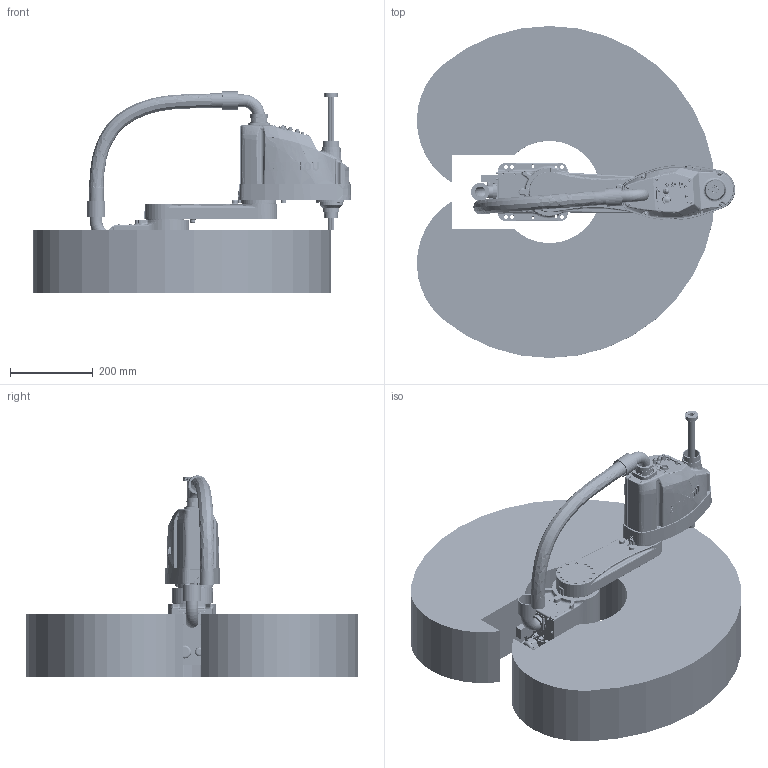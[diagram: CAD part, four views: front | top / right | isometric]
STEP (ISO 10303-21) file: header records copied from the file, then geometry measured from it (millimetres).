
FILE_DESCRIPTION (( 'STEP AP214' ), '1' );
FILE_NAME ('TM4-R400湍堍雄毓峓衄logo2017.STEP', '2023-10-19T13:53:09', ( '' ), ( '' ), 'SwSTEP 2.0', 'SolidWorks 2017', '' );
FILE_SCHEMA (( 'AUTOMOTIVE_DESIGN' ));
Length unit declared in the file: millimetre
Products named in the file (7): 丝杆部分^TM4-R400带运动范围有logo2017; 底座部分^TM4-R400带运动范围有logo2017; 大臂部分^TM4-R400带运动范围有logo2017; 运动范围图^TM4-R400带运动范围有logo2017; TM4-R400湍堍雄毓峓衄logo2017; 小臂部分logo^TM4-R400带运动范围有logo2017; 浪管^TM4-R400带运动范围有logo2017
Assembly tree (6 placements, depth 2):
  TM4-R400湍堍雄毓峓衄logo2017
    底座部分^TM4-R400带运动范围有logo2017
    大臂部分^TM4-R400带运动范围有logo2017
    浪管^TM4-R400带运动范围有logo2017
    丝杆部分^TM4-R400带运动范围有logo2017
    运动范围图^TM4-R400带运动范围有logo2017
    小臂部分logo^TM4-R400带运动范围有logo2017
Bounding box: 767.46 x 800 x 484.8 mm (x, y, z)
Volume: 60890730.3 mm3; surface area: 2307175.8 mm2
Topology: 56 solids, 132 shells, 6370 faces, 16294 edges, 10459 vertices
Faces by surface type: plane 2453, cylinder 1632, bspline 1230, cone 722, torus 275, sphere 58
Entity records: 306594 total; most frequent: CARTESIAN_POINT 154617, ORIENTED_EDGE 32251, DIRECTION 26055, EDGE_CURVE 16127, VERTEX_POINT 10447, AXIS2_PLACEMENT_3D 9214, VECTOR 7627, LINE 7627
